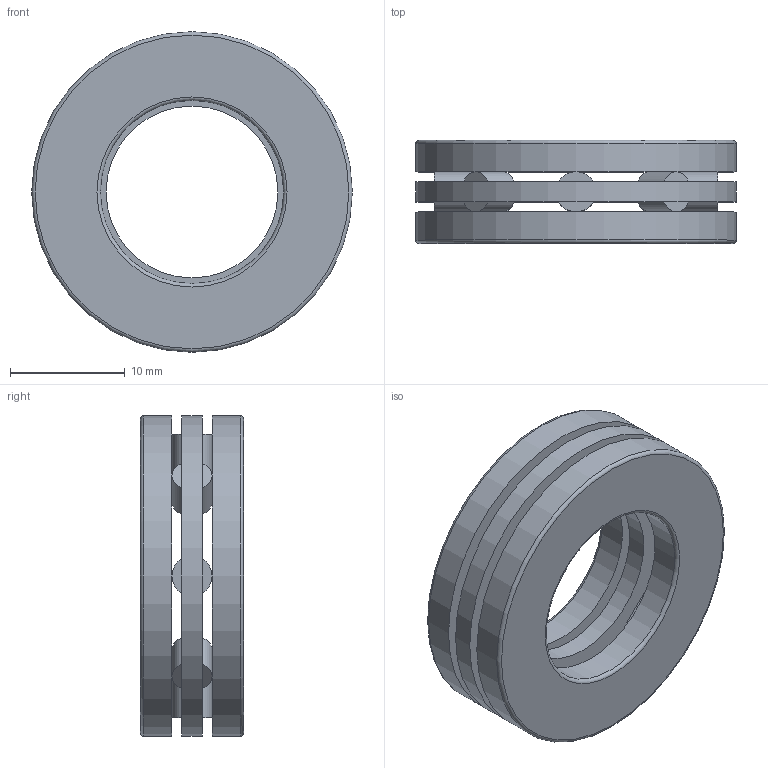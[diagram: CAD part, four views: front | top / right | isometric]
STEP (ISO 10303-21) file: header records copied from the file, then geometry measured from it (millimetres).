
FILE_DESCRIPTION(/* description */ (''),/* implementation_level */ '2;1');
FILE_NAME(/* name */ 'D:\moje\parametrické\Axiálne valčekové lo\X2\017E\X0\iská\811--\811--_\81102.stp',/* time_stamp */ '2016-09-27T08:30:30+02:00',/* author */ ('OUBALASKO'),/* organization */ (''),/* preprocessor_version */ 'ST-DEVELOPER v15.6',/* originating_system */ 'Autodesk Inventor 2015',/* authorisation */ '');
FILE_SCHEMA (('AUTOMOTIVE_DESIGN { 1 0 10303 214 3 1 1 }'));
Length unit declared in the file: millimetre
Products named in the file (6): GS81102; WS81102; 81102-cage; 81102-roller; K81102TNG; 81102
Assembly tree (12 placements, depth 3):
  81102
    GS81102
    WS81102
    K81102TNG
      81102-cage
      81102-roller  x8
Bounding box: 28 x 9 x 28 mm (x, y, z)
Volume: 3185.8 mm3; surface area: 3976.1 mm2
Topology: 11 solids, 11 shells, 72 faces, 146 edges, 96 vertices
Faces by surface type: plane 54, cylinder 14, torus 4
Full cylindrical faces by diameter (mm): 3.5 x8, 15 x2, 16 x1, 28 x3
Entity records: 1657 total; most frequent: DIRECTION 270, CARTESIAN_POINT 265, ORIENTED_EDGE 228, EDGE_CURVE 114, LINE 96, VECTOR 96, AXIS2_PLACEMENT_3D 87, EDGE_LOOP 84
